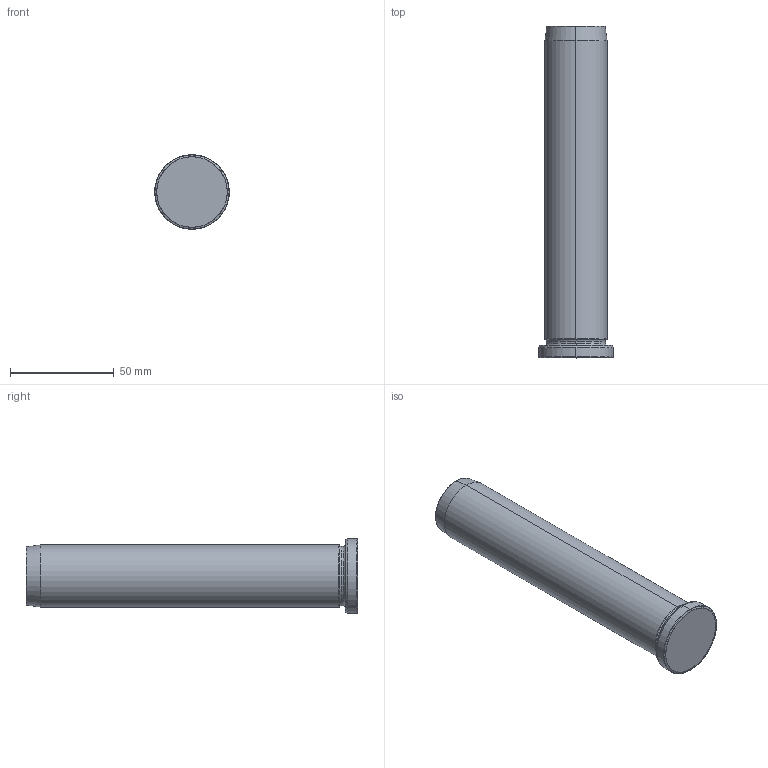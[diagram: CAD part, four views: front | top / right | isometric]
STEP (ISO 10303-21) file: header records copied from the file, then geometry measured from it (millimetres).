
FILE_DESCRIPTION( ( 'STEP AP203' ), '1' );
FILE_NAME( 'D:/Delta 3 D/D08/D08 - 30x160.step', '2002-12-31T22:28:08', ( ' ' ), ( ' ' ), 'XStep 1.0', ' ', ' ' );
FILE_SCHEMA( ( 'CONFIG_CONTROL_DESIGN' ) );
Length unit declared in the file: metre
Products named in the file (1): 1
Bounding box: 36 x 160 x 36 mm (x, y, z)
Volume: 114446.2 mm3; surface area: 17081 mm2
Topology: 1 solids, 1 shells, 33 faces, 64 edges, 34 vertices
Faces by surface type: bspline 21, revolution 12
Entity records: 1093 total; most frequent: CARTESIAN_POINT 483, ORIENTED_EDGE 128, DIRECTION 98, EDGE_CURVE 64, AXIS2_PLACEMENT_3D 37, CIRCLE 36, EDGE_LOOP 34, VERTEX_POINT 34
